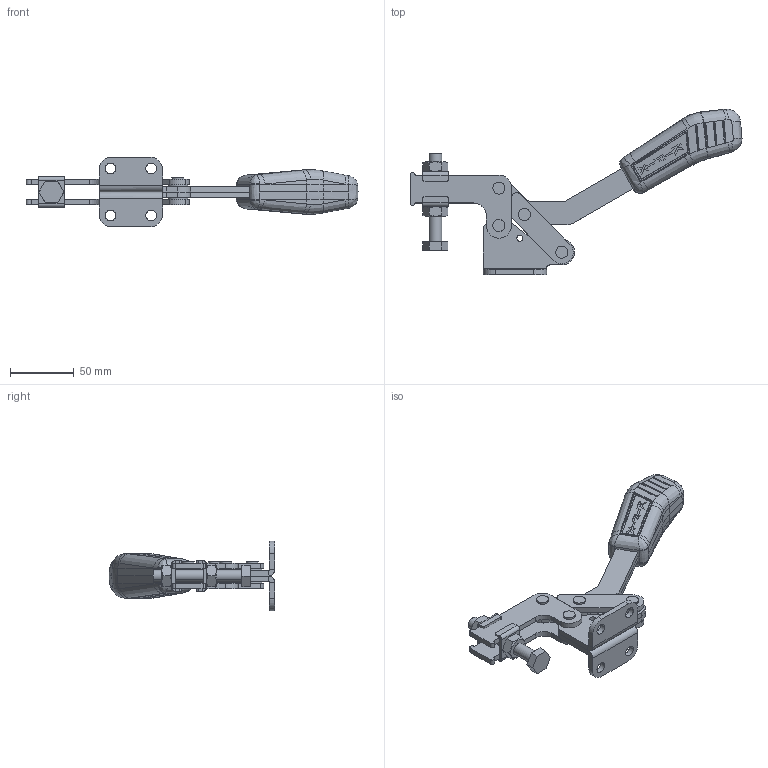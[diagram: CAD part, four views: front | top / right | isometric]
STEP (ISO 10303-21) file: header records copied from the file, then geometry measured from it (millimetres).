
FILE_DESCRIPTION (( 'STEP AP203' ), '1' );
FILE_NAME ('KF-541 DI.STEP', '2014-08-18T17:17:42', ( 'Ricardo' ), ( '' ), 'SwSTEP 2.0', 'SolidWorks 2013', '' );
FILE_SCHEMA (( 'CONFIG_CONTROL_DESIGN' ));
Length unit declared in the file: millimetre
Products named in the file (12): 03.13018; KF-541 DI; 08.10008; 06.50026; 07.60002; 14.10003; 12.50021; 02.12035_Direita; 11.50003; 02.12035_Esquerda; 17.50002; 01.10044
Assembly tree (26 placements, depth 2):
  KF-541 DI
    02.12035_Direita
    02.12035_Esquerda
    01.10044  x2
    03.13018  x2
    08.10008  x2
    06.50026  x4
    07.60002
    14.10003  x2
    12.50021
    11.50003  x2
    17.50002  x8
Bounding box: 261.3 x 130.36 x 55 mm (x, y, z)
Volume: 185209 mm3; surface area: 81490.6 mm2
Topology: 26 solids, 26 shells, 810 faces, 1982 edges, 1233 vertices
Faces by surface type: plane 274, cylinder 230, bspline 159, cone 92, sphere 52, torus 3
Entity records: 23309 total; most frequent: CARTESIAN_POINT 8863, ORIENTED_EDGE 2926, DIRECTION 2270, EDGE_CURVE 1463, VERTEX_POINT 924, AXIS2_PLACEMENT_3D 864, EDGE_LOOP 647, ADVANCED_FACE 584
